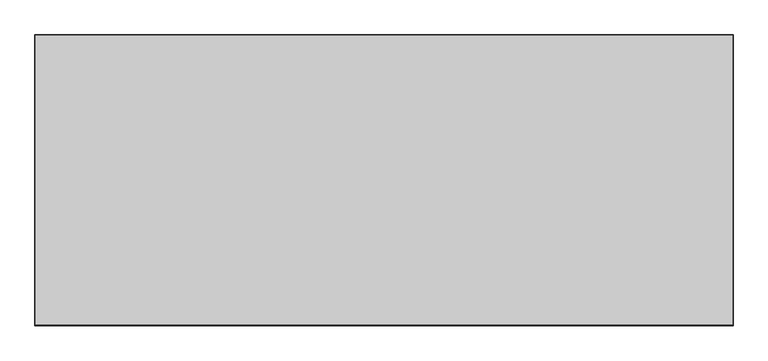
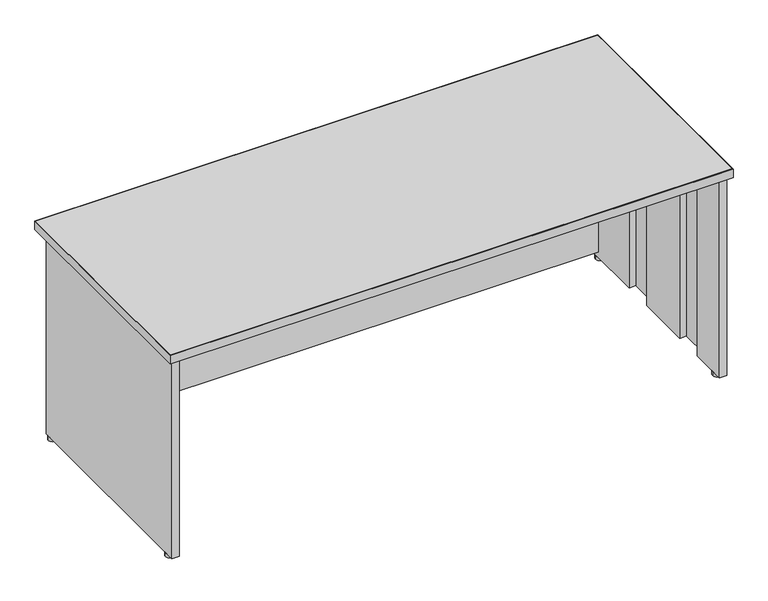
"""IFC4 building model written with IfcOpenShell, lengths in millimetres: furniture geometry, Steelcase - Kick Freestanding - Desk Shell - Full Height Modesty Panel : 30D x 72W."""

from ifc_helpers import new_model, si_unit, point, frame, frame_2d, origin, origin_with_axes, place, context, project, spatial, polyline, circle_curve, trimmed, segment, composite_curve, outline, extrude, source, transform, mapped, element, save


def furniture_75551f2b(model_context):
    return source(origin(), model_context, "Body", "SweptSolid", [
        extrude(outline(polyline([(677.0450425, -999.9647597), (677.0450425, -974.5647604), (2431.4738425, -974.5647604), (2431.4738425, -999.9647597), (677.0450425, -999.9647597)])), frame((0.0, 0.0, 31.242), z_axis=(0.0, 0.0, 1.0), x_axis=(1.0, 0.0, 0.0)), (0.0, 0.0, 1.0), 663.702),
        extrude(outline(composite_curve([segment(trimmed(circle_curve(frame_2d((665.1357759, -986.9367877)), 13.97), [point((651.1657759, -986.9367877))], [point((679.1057759, -986.9367877))], False, "CARTESIAN"), True, "CONTINUOUS"), segment(trimmed(circle_curve(frame_2d((665.1357759, -986.9367877)), 13.97), [point((679.1057759, -986.9367877))], [point((651.1657759, -986.9367877))], False, "CARTESIAN"), True, "CONTINUOUS")], self_intersect=False)), origin_with_axes(), (0.0, 0.0, 1.0), 12.446),
        extrude(outline(composite_curve([segment(trimmed(circle_curve(frame_2d((665.1357759, -1646.0441481)), 13.97), [point((651.1657759, -1646.0441481))], [point((679.1057759, -1646.0441481))], False, "CARTESIAN"), True, "CONTINUOUS"), segment(trimmed(circle_curve(frame_2d((665.1357759, -1646.0441481)), 13.97), [point((679.1057759, -1646.0441481))], [point((651.1657759, -1646.0441481))], False, "CARTESIAN"), True, "CONTINUOUS")], self_intersect=False)), origin_with_axes(), (0.0, 0.0, 1.0), 12.446),
        extrude(outline(polyline([(2431.4738425, -1172.2529604), (2431.4738425, -972.7867604), (2455.9594421, -972.7867604), (2455.9594421, -1680.938741), (2431.4738421, -1680.938741), (2431.4738421, -1556.6311348), (2453.9020425, -1556.6311348), (2453.9020425, -1456.9107682), (2431.4738421, -1456.9107682), (2431.4738421, -1271.9733647), (2453.9020425, -1271.9733647), (2453.9020425, -1172.2529604), (2431.4738425, -1172.2529604)])), frame((0.0, 0.0, 12.446), z_axis=(0.0, 0.0, 1.0), x_axis=(1.0, 0.0, 0.0)), (0.0, 0.0, 1.0), 682.498),
        extrude(outline(polyline([(677.0450425, -1172.2529604), (654.6168425, -1172.2529604), (654.6168425, -1271.9733647), (677.0450429, -1271.9733647), (677.0450429, -1456.9107682), (654.6168425, -1456.9107682), (654.6168425, -1556.6311348), (677.0450429, -1556.6311348), (677.0450429, -1680.938741), (652.5594429, -1680.938741), (652.5594429, -972.7867604), (677.0450425, -972.7867604), (677.0450425, -1172.2529604)])), frame((0.0, 0.0, 12.446), z_axis=(0.0, 0.0, 1.0), x_axis=(1.0, 0.0, 0.0)), (0.0, 0.0, 1.0), 682.498),
        extrude(outline(polyline([(2467.6688425, -932.6293604), (2467.6688425, -1690.6669215), (640.8500425, -1690.6669215), (640.8500425, -932.6293604), (2467.6688425, -932.6293604)])), frame((0.0, 0.0, 694.944), z_axis=(0.0, 0.0, 1.0), x_axis=(1.0, 0.0, 0.0)), (0.0, 0.0, 1.0), 28.956),
        extrude(outline(polyline([(2468.6594425, -931.6387604), (2468.6594425, -1693.6387604), (639.8594425, -1693.6387604), (639.8594425, -931.6387604), (2468.6594425, -931.6387604)]), holes=[polyline([(2467.6688425, -932.6293604), (640.8500425, -932.6293604), (640.8500425, -1690.6669215), (2467.6688425, -1690.6669215), (2467.6688425, -932.6293604)])]), frame((0.0, 0.0, 694.944), z_axis=(0.0, 0.0, 1.0), x_axis=(1.0, 0.0, 0.0)), (0.0, 0.0, 1.0), 28.956),
        extrude(outline(composite_curve([segment(trimmed(circle_curve(frame_2d((2443.3831091, -1646.0441481)), 13.97), [point((2429.4131091, -1646.0441481))], [point((2457.3531091, -1646.0441481))], False, "CARTESIAN"), True, "CONTINUOUS"), segment(trimmed(circle_curve(frame_2d((2443.3831091, -1646.0441481)), 13.97), [point((2457.3531091, -1646.0441481))], [point((2429.4131091, -1646.0441481))], False, "CARTESIAN"), True, "CONTINUOUS")], self_intersect=False)), origin_with_axes(), (0.0, 0.0, 1.0), 12.446),
        extrude(outline(composite_curve([segment(trimmed(circle_curve(frame_2d((2443.3831091, -986.9367877)), 13.97), [point((2457.3531091, -986.9367877))], [point((2429.4131091, -986.9367877))], False, "CARTESIAN"), True, "CONTINUOUS"), segment(trimmed(circle_curve(frame_2d((2443.3831091, -986.9367877)), 13.97), [point((2429.4131091, -986.9367877))], [point((2457.3531091, -986.9367877))], False, "CARTESIAN"), True, "CONTINUOUS")], self_intersect=False)), origin_with_axes(), (0.0, 0.0, 1.0), 12.446),
    ])


if __name__ == "__main__":
    model = new_model("IFC4")
    model_context = context("Model", 3, world=origin())
    ifc_project = project(units=[si_unit("LENGTHUNIT", "METRE", prefix="MILLI")], contexts=[model_context])
    site = spatial("IfcSite", under=ifc_project)
    building = spatial("IfcBuilding", under=site)
    placement = place(None, origin())
    furniture_shape = furniture_75551f2b(model_context)
    element("IfcFurniture", 1, ObjectType="Steelcase - Kick Freestanding - Desk Shell - Full Height Modesty Panel : 30D x 72W", at=placement, inside=building, context=model_context, shape_type="MappedRepresentation", body=[
        mapped(furniture_shape, transform((0.0, 0.0, 0.0), x_axis=(1.0, 0.0, 0.0), y_axis=(0.0, 1.0, 0.0), z_axis=(0.0, 0.0, 1.0))),
    ])
    save(model, "model.ifc")
